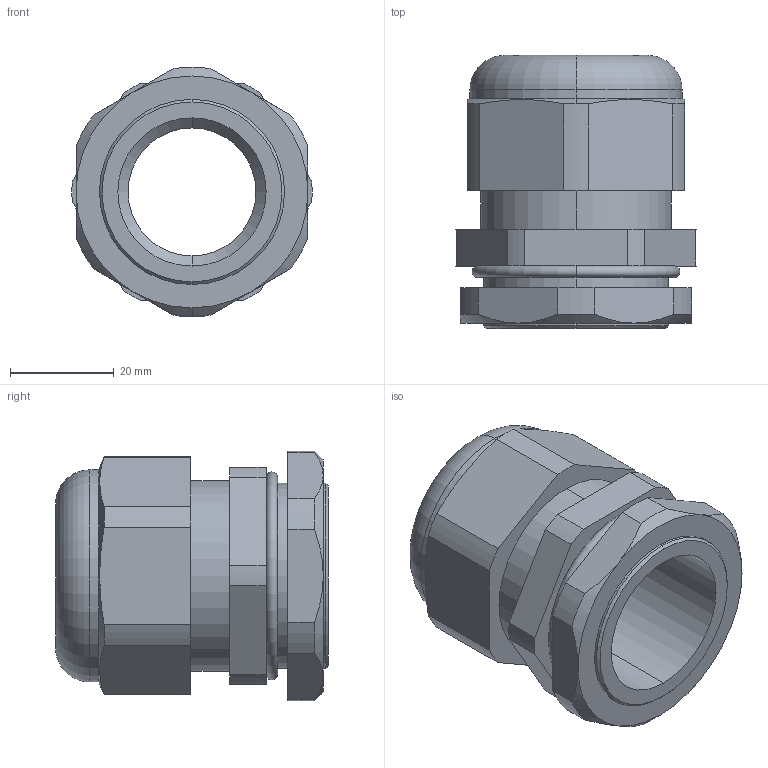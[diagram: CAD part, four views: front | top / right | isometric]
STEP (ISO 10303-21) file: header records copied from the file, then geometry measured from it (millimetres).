
FILE_DESCRIPTION (( 'STEP AP203' ), '1' );
FILE_NAME ('CH-M36.STEP', '2018-02-07T14:43:40', ( '' ), ( '' ), 'SwSTEP 2.0', 'SolidWorks 2012', '' );
FILE_SCHEMA (( 'CONFIG_CONTROL_DESIGN' ));
Length unit declared in the file: millimetre
Products named in the file (1): CH-M36
Bounding box: 46.18 x 52.5 x 47.97 mm (x, y, z)
Volume: 42076.4 mm3; surface area: 15414.2 mm2
Topology: 1 solids, 1 shells, 78 faces, 189 edges, 118 vertices
Faces by surface type: cylinder 34, plane 25, cone 15, torus 4
Entity records: 2458 total; most frequent: CARTESIAN_POINT 512, DIRECTION 415, ORIENTED_EDGE 378, EDGE_CURVE 189, AXIS2_PLACEMENT_3D 165, VERTEX_POINT 118, CIRCLE 86, LINE 85
